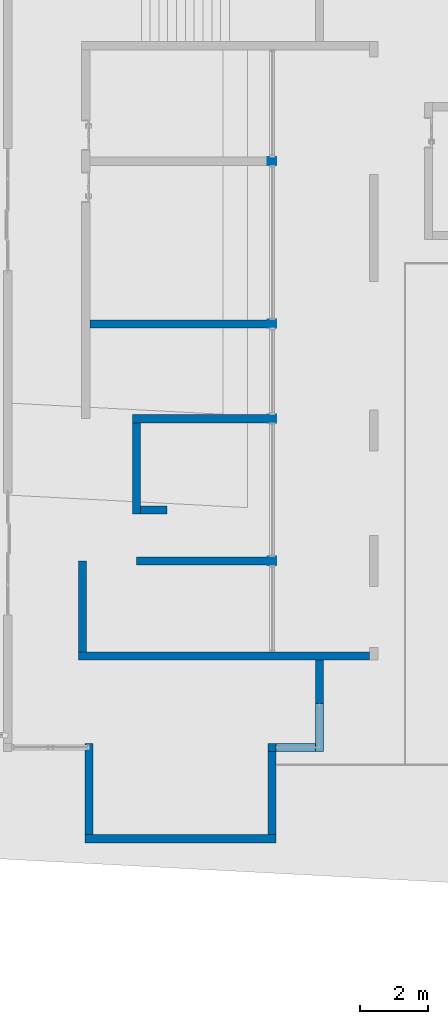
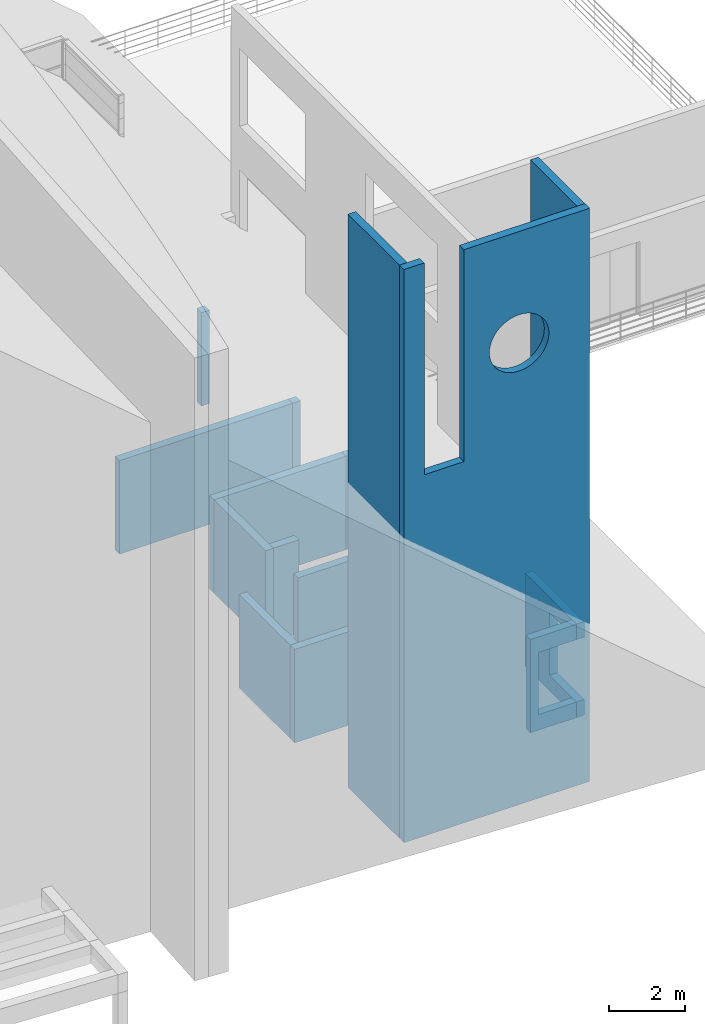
# One storey, part 54 of 82: 13 walls, 6 openings.
"""IFC2X3 building model written with IfcOpenShell, lengths in millimetres."""

from ifc_helpers import new_model, entity, si_unit, converted_unit, derived_unit, direction, frame, frame_2d, origin, origin_2d_with_axis, place, context, subcontext, project, spatial, rectangle, circle, extrude, faceted_brep, material, layer, layer_set, layer_usage, type_object, element, save


model = new_model("IFC2X3")

# Units and contexts
model_context = context("Model", 3, precision=0.01, world=origin(), true_north=direction((6.12303176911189e-17, 1.0)))
body_context = subcontext(model_context, "Body", "Model", "MODEL_VIEW")
ifc_project = project(units=[si_unit("LENGTHUNIT", "METRE", prefix="MILLI"), si_unit("AREAUNIT", "SQUARE_METRE"), si_unit("VOLUMEUNIT", "CUBIC_METRE"), converted_unit("PLANEANGLEUNIT", "DEGREE", entity("IfcRatioMeasure", 0.0174532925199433), si_unit("PLANEANGLEUNIT", "RADIAN"), dimensions=[0, 0, 0, 0, 0, 0, 0]), si_unit("MASSUNIT", "GRAM", prefix="KILO"), derived_unit("MASSDENSITYUNIT", [(si_unit("MASSUNIT", "GRAM", prefix="KILO"), 1), (si_unit("LENGTHUNIT", "METRE"), -3)]), si_unit("TIMEUNIT", "SECOND"), si_unit("FREQUENCYUNIT", "HERTZ"), si_unit("THERMODYNAMICTEMPERATUREUNIT", "DEGREE_CELSIUS"), derived_unit("THERMALTRANSMITTANCEUNIT", [(si_unit("MASSUNIT", "GRAM", prefix="KILO"), 1), (si_unit("THERMODYNAMICTEMPERATUREUNIT", "KELVIN"), -1), (si_unit("TIMEUNIT", "SECOND"), -3)]), derived_unit("VOLUMETRICFLOWRATEUNIT", [(si_unit("LENGTHUNIT", "METRE"), 3), (si_unit("TIMEUNIT", "SECOND"), -1)]), si_unit("ELECTRICCURRENTUNIT", "AMPERE"), si_unit("ELECTRICVOLTAGEUNIT", "VOLT"), si_unit("POWERUNIT", "WATT"), si_unit("FORCEUNIT", "NEWTON", prefix="KILO"), si_unit("ILLUMINANCEUNIT", "LUX"), si_unit("LUMINOUSFLUXUNIT", "LUMEN"), si_unit("LUMINOUSINTENSITYUNIT", "CANDELA"), derived_unit("USERDEFINED", [(si_unit("MASSUNIT", "GRAM", prefix="KILO"), -1), (si_unit("LENGTHUNIT", "METRE"), -2), (si_unit("TIMEUNIT", "SECOND"), 3), (si_unit("LUMINOUSFLUXUNIT", "LUMEN"), 1)]), derived_unit("LINEARVELOCITYUNIT", [(si_unit("LENGTHUNIT", "METRE"), 1), (si_unit("TIMEUNIT", "SECOND"), -1)]), si_unit("PRESSUREUNIT", "PASCAL"), derived_unit("USERDEFINED", [(si_unit("LENGTHUNIT", "METRE"), -2), (si_unit("MASSUNIT", "GRAM", prefix="KILO"), 1), (si_unit("TIMEUNIT", "SECOND"), -2)])], contexts=[model_context])

# Site, building, storey
site_placement = place(None, origin())
site = spatial("IfcSite", under=ifc_project, at=site_placement, Name="表面", CompositionType="ELEMENT")
building_placement = place(site_placement, origin())
building = spatial("IfcBuilding", under=site, at=building_placement, CompositionType="ELEMENT")
storey_placement = place(building_placement, origin())
storey = spatial("IfcBuildingStorey", under=building, at=storey_placement, Name="1F", CompositionType="ELEMENT", Elevation=0.0)

# Walls
ifc_material_1 = material(Name="白色涂料")
ifc_layer_1 = layer(ifc_material_1, 10.0)
ifc_material_2 = material(Name="默认墙")
ifc_layer_2 = layer(ifc_material_2, 220.0)
ifc_layer_3 = layer(ifc_material_1, 10.0)
ifc_layer_set = layer_set([ifc_layer_1, ifc_layer_2, ifc_layer_3], Name="基本墙:粉刷墙240")
wall_type = type_object("IfcWallType", Name="基本墙:粉刷墙240", PredefinedType="STANDARD", material=ifc_layer_set)
wall_1_placement = place(storey_placement, frame((-6630.24991264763, -11996.868426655, 0.0), z_axis=(0.0, 0.0, 1.0), x_axis=(0.0, -1.0, 0.0)))
element("IfcWall", 1, at=wall_1_placement, inside=storey, type_object=wall_type, Name="基本墙:粉刷墙240", ObjectType="基本墙:粉刷墙240", context=body_context, shape_type="SweptSolid", body=[
    extrude(rectangle(XDim=240.0, YDim=240.0, at=origin_2d_with_axis()), frame((120.0, 0.0, 0.0)), (0.0, 0.0, 1.0), 3000.00000000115),
    extrude(rectangle(XDim=239.999999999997, YDim=240.0, at=origin_2d_with_axis()), frame((11920.0, 0.0, 0.0)), (0.0, 0.0, 1.0), 3000.00000000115),
    extrude(rectangle(XDim=240.000000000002, YDim=240.0, at=frame_2d((0.0, -5.40012479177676e-13), x_axis=(1.0, 0.0))), frame((4920.0, 0.0, 0.0)), (0.0, 0.0, 1.0), 3000.00000000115),
    extrude(rectangle(XDim=239.999999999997, YDim=240.0, at=frame_2d((2.16715534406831e-12, -5.40012479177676e-13), x_axis=(1.0, 0.0))), frame((7720.0, 0.0, 0.0)), (0.0, 0.0, 1.0), 3000.00000000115),
])
ifc_layer_usage_1 = layer_usage(ifc_layer_set, "AXIS2", "NEGATIVE", 120.0)
wall_2_placement = place(storey_placement, frame((-12010.2499126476, -16916.868426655, 0.0)))
element("IfcWallStandardCase", 2, at=wall_2_placement, inside=storey, type_object=wall_type, material=ifc_layer_usage_1, Name="基本墙:粉刷墙240", ObjectType="基本墙:粉刷墙240", context=body_context, shape_type="SweptSolid", body=[
    extrude(rectangle(XDim=5260.0, YDim=240.000000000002, at=frame_2d((2630.0, -3.83693077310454e-13), x_axis=(-1.0, 0.0))), origin(), (0.0, 0.0, 1.0), 3000.00000000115),
])
ifc_layer_usage_2 = layer_usage(ifc_layer_set, "AXIS2", "NEGATIVE", 120.0)
wall_3_placement = place(storey_placement, frame((-6750.24991264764, -19716.868426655, 0.0), z_axis=(0.0, 0.0, 1.0), x_axis=(-1.0, 0.0, 0.0)))
element("IfcWallStandardCase", 3, at=wall_3_placement, inside=storey, type_object=wall_type, material=ifc_layer_usage_2, Name="基本墙:粉刷墙240", ObjectType="基本墙:粉刷墙240", context=body_context, shape_type="SweptSolid", body=[
    extrude(rectangle(XDim=4000.0, YDim=239.999999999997, at=frame_2d((2000.0, 0.0), x_axis=(-1.0, 0.0))), origin(), (0.0, 0.0, 1.0), 3000.00000000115),
])
ifc_layer_usage_3 = layer_usage(ifc_layer_set, "AXIS2", "NEGATIVE", 120.0)
wall_4_placement = place(storey_placement, frame((-10630.2499126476, -19836.868426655, 0.0), z_axis=(0.0, 0.0, 1.0), x_axis=(0.0, -1.0, 0.0)))
element("IfcWallStandardCase", 4, at=wall_4_placement, inside=storey, type_object=wall_type, material=ifc_layer_usage_3, Name="基本墙:粉刷墙240", ObjectType="基本墙:粉刷墙240", context=body_context, shape_type="SweptSolid", body=[
    extrude(rectangle(XDim=2700.00000000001, YDim=240.000000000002, at=frame_2d((1350.0, 0.0), x_axis=(-1.0, 0.0))), origin(), (0.0, 0.0, 1.0), 3000.00000000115),
])
ifc_layer_usage_4 = layer_usage(ifc_layer_set, "AXIS2", "NEGATIVE", 120.0)
wall_5_placement = place(storey_placement, frame((-10510.2499126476, -22416.868426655, 0.0)))
element("IfcWallStandardCase", 5, at=wall_5_placement, inside=storey, type_object=wall_type, material=ifc_layer_usage_4, Name="基本墙:粉刷墙240", ObjectType="基本墙:粉刷墙240", context=body_context, shape_type="SweptSolid", body=[
    extrude(rectangle(XDim=779.999999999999, YDim=239.999999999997, at=frame_2d((390.0, 0.0), x_axis=(-1.0, 0.0))), origin(), (0.0, 0.0, 1.0), 3000.00000000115),
])
ifc_layer_usage_5 = layer_usage(ifc_layer_set, "AXIS2", "NEGATIVE", 120.0)
wall_6_placement = place(storey_placement, frame((-6750.24991264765, -23916.868426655, 0.0), z_axis=(0.0, 0.0, 1.0), x_axis=(-1.0, 0.0, 0.0)))
element("IfcWallStandardCase", 6, at=wall_6_placement, inside=storey, type_object=wall_type, material=ifc_layer_usage_5, Name="基本墙:粉刷墙240", ObjectType="基本墙:粉刷墙240", context=body_context, shape_type="SweptSolid", body=[
    extrude(rectangle(XDim=3879.99999999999, YDim=239.999999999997, at=frame_2d((1940.0, -1.91846538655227e-13), x_axis=(-1.0, 0.0))), origin(), (0.0, 0.0, 1.0), 3000.00000000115),
])
ifc_layer_usage_6 = layer_usage(ifc_layer_set, "AXIS2", "NEGATIVE", 120.0)
wall_7_placement = place(storey_placement, frame((-12350.2499126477, -26716.868426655, 0.0)))
element("IfcWallStandardCase", 7, at=wall_7_placement, inside=storey, type_object=wall_type, material=ifc_layer_usage_6, Name="基本墙:粉刷墙240", ObjectType="基本墙:粉刷墙240", context=body_context, shape_type="SweptSolid", body=[
    extrude(rectangle(XDim=8600.0, YDim=239.999999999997, at=frame_2d((4300.0, 0.0), x_axis=(-1.0, 0.0))), origin(), (0.0, 0.0, 1.0), 3000.00000000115),
])
ifc_layer_usage_7 = layer_usage(ifc_layer_set, "AXIS2", "NEGATIVE", 120.0)
wall_8_placement = place(storey_placement, frame((-12230.2499126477, -26596.868426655, 0.0), z_axis=(0.0, 0.0, 1.0), x_axis=(0.0, 1.0, 0.0)))
element("IfcWallStandardCase", 8, at=wall_8_placement, inside=storey, type_object=wall_type, material=ifc_layer_usage_7, Name="基本墙:粉刷墙240", ObjectType="基本墙:粉刷墙240", context=body_context, shape_type="SweptSolid", body=[
    extrude(rectangle(XDim=2680.00000000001, YDim=240.000000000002, at=frame_2d((1340.00000000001, -9.9475983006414e-14), x_axis=(-1.0, 0.0))), origin(), (0.0, 0.0, 1.0), 3000.00000000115),
])

# Wall, opening
ifc_layer_usage_8 = layer_usage(ifc_layer_set, "AXIS2", "NEGATIVE", 120.0)
wall_9_placement = place(storey_placement, frame((-5230.24991264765, -26836.868426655, 0.0), z_axis=(0.0, 0.0, 1.0), x_axis=(0.0, -1.0, 0.0)))
wall_9 = element("IfcWallStandardCase", 9, at=wall_9_placement, inside=storey, type_object=wall_type, material=ifc_layer_usage_8, Name="基本墙:粉刷墙240", ObjectType="基本墙:粉刷墙240", context=body_context, shape_type="SweptSolid", body=[
    extrude(rectangle(XDim=2700.0, YDim=240.0, at=frame_2d((1350.0, 2.8421709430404e-14), x_axis=(-1.0, 0.0))), origin(), (0.0, 0.0, 1.0), 3000.00000000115),
])
opening_1_placement = place(wall_9_placement, frame((2700.0, -1280.0, 500.0), z_axis=(0.0, 0.0, 1.0), x_axis=(0.0, 1.0, 0.0)))
element("IfcOpeningElement", 10, at=opening_1_placement, cuts=wall_9, Name="基本墙:粉刷墙240", ObjectType="Opening", context=body_context, shape_type="Brep", body=[
    faceted_brep([(1160.0, 1420.0, 0.0), (1160.0, 1420.0, 2000.0), (1400.0, 1420.0, 2000.0), (1400.0, 1420.0, 0.0), (1160.0, 240.0, 0.0), (1160.0, 240.0, 2000.0), (0.0, 240.0, 2000.0), (0.0, 0.0, 2000.0), (1400.0, 0.0, 2000.0), (1400.0, 0.0, 0.0), (0.0, 0.0, 0.0), (0.0, 240.0, 0.0)], [[[0, 1, 2, 3]], [[1, 0, 4, 5]], [[2, 1, 5, 6, 7, 8]], [[3, 2, 8, 9]], [[0, 3, 9, 10, 11, 4]], [[11, 10, 7, 6]], [[5, 4, 11, 6]], [[9, 8, 7, 10]]]),
])

ifc_layer_usage_9 = layer_usage(ifc_layer_set, "AXIS2", "NEGATIVE", 120.0)
wall_10_placement = place(storey_placement, frame((-5350.24991264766, -29416.868426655, 0.0), z_axis=(0.0, 0.0, 1.0), x_axis=(-1.0, 0.0, 0.0)))
wall_10 = element("IfcWallStandardCase", 11, at=wall_10_placement, inside=storey, type_object=wall_type, material=ifc_layer_usage_9, Name="基本墙:粉刷墙240", ObjectType="基本墙:粉刷墙240", context=body_context, shape_type="SweptSolid", body=[
    extrude(rectangle(XDim=1400.0, YDim=239.999999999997, at=frame_2d((699.999999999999, 0.0), x_axis=(-1.0, 0.0))), origin(), (0.0, 0.0, 1.0), 3000.00000000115),
])
opening_2_placement = place(wall_10_placement, frame((1160.0, 120.0, 500.0)))
element("IfcOpeningElement", 12, at=opening_2_placement, cuts=wall_10, Name="基本墙:粉刷墙240", ObjectType="Opening", context=body_context, shape_type="Brep", body=[
    faceted_brep([(-1160.0, -1420.0, 0.0), (-1160.0, -1420.0, 2000.0), (-1400.0, -1420.0, 2000.0), (-1400.0, -1420.0, 0.0), (-1160.0, -240.0, 0.0), (-1160.0, -240.0, 2000.0), (0.0, -240.0, 2000.0), (0.0, 0.0, 2000.0), (-1400.0, 0.0, 2000.0), (-1400.0, 0.0, 0.0), (0.0, 0.0, 0.0), (0.0, -240.0, 0.0)], [[[0, 1, 2, 3]], [[1, 0, 4, 5]], [[2, 1, 5, 6, 7, 8]], [[3, 2, 8, 9]], [[0, 3, 9, 10, 11, 4]], [[11, 10, 7, 6]], [[5, 4, 11, 6]], [[9, 8, 7, 10]]]),
])

# Wall, openings
ifc_layer_usage_10 = layer_usage(ifc_layer_set, "AXIS2", "NEGATIVE", 120.0)
wall_11_placement = place(storey_placement, frame((-6630.24991264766, -29296.868426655, 0.0), z_axis=(0.0, 0.0, 1.0), x_axis=(0.0, -1.0, 0.0)))
wall_11 = element("IfcWallStandardCase", 13, at=wall_11_placement, inside=storey, type_object=wall_type, material=ifc_layer_usage_10, Name="基本墙:粉刷墙240", ObjectType="基本墙:粉刷墙240", context=body_context, shape_type="SweptSolid", body=[
    extrude(rectangle(XDim=2460.0, YDim=240.0, at=frame_2d((1470.0, 1.98951966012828e-13), x_axis=(-1.0, 0.0))), origin(), (0.0, 0.0, 1.0), 18400.0),
])
opening_3_placement = place(wall_11_placement, frame((240.0, 120.0, 3500.0)))
element("IfcOpeningElement", 14, at=opening_3_placement, cuts=wall_11, Name="基本墙:粉刷墙240", ObjectType="Opening", context=body_context, shape_type="Brep", body=[
    faceted_brep([(-2700.0, 1160.0, 0.0), (-2700.0, 1160.0, 2000.0), (-2700.0, 1400.0, 2000.0), (-2700.0, 1400.0, 0.0), (-240.0, 1160.0, 0.0), (-240.0, 1160.0, 2000.0), (-240.0, 0.0, 2000.0), (0.0, 0.0, 2000.0), (0.0, 1400.0, 2000.0), (0.0, 1400.0, 0.0), (0.0, 0.0, 0.0), (-240.0, 0.0, 0.0)], [[[0, 1, 2, 3]], [[1, 0, 4, 5]], [[2, 1, 5, 6, 7, 8]], [[3, 2, 8, 9]], [[0, 3, 9, 10, 11, 4]], [[11, 10, 7, 6]], [[5, 4, 11, 6]], [[9, 8, 7, 10]]]),
])
opening_4_placement = place(wall_11_placement, frame((240.0, 120.0, 6100.0)))
element("IfcOpeningElement", 15, at=opening_4_placement, cuts=wall_11, Name="基本墙:粉刷墙240", ObjectType="Opening", context=body_context, shape_type="Brep", body=[
    faceted_brep([(-2700.0, 1160.0, 0.0), (-2700.0, 1160.0, 2000.0), (-2700.0, 1400.0, 2000.0), (-2700.0, 1400.0, 0.0), (-240.0, 1160.0, 0.0), (-240.0, 1160.0, 2000.0), (-240.0, 0.0, 2000.0), (0.0, 0.0, 2000.0), (0.0, 1400.0, 2000.0), (0.0, 1400.0, 0.0), (0.0, 0.0, 0.0), (-240.0, 0.0, 0.0)], [[[0, 1, 2, 3]], [[1, 0, 4, 5]], [[2, 1, 5, 6, 7, 8]], [[3, 2, 8, 9]], [[0, 3, 9, 10, 11, 4]], [[11, 10, 7, 6]], [[5, 4, 11, 6]], [[9, 8, 7, 10]]]),
])

ifc_layer_usage_11 = layer_usage(ifc_layer_set, "AXIS2", "NEGATIVE", 120.0)
wall_12_placement = place(storey_placement, frame((-6510.24991264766, -32116.868426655, 0.0), z_axis=(0.0, 0.0, 1.0), x_axis=(-1.0, 0.0, 0.0)))
wall_12 = element("IfcWallStandardCase", 16, at=wall_12_placement, inside=storey, type_object=wall_type, material=ifc_layer_usage_11, Name="基本墙:粉刷墙240", ObjectType="基本墙:粉刷墙240", context=body_context, shape_type="SweptSolid", body=[
    extrude(rectangle(XDim=5640.0, YDim=239.999999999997, at=frame_2d((2820.0, 4.68958205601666e-13), x_axis=(-1.0, 0.0))), origin(), (0.0, 0.0, 1.0), 18400.0),
])
opening_5_placement = place(wall_12_placement, origin())
element("IfcOpeningElement", 17, at=opening_5_placement, cuts=wall_12, Name="基本墙:粉刷墙240", ObjectType="Opening", context=body_context, shape_type="SweptSolid", body=[
    extrude(circle(Radius=901.35012604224, at=frame_2d((2.16573425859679e-12, 415.249382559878), x_axis=(1.0, 0.0))), frame((2140.0, -272.400000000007, 15239.7177183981), z_axis=(0.0, 1.0, 0.0), x_axis=(1.0, 0.0, 0.0)), (0.0, 0.0, 1.0), 544.800000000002),
])
opening_6_placement = place(wall_12_placement, origin())
element("IfcOpeningElement", 18, at=opening_6_placement, cuts=wall_12, Name="基本墙:粉刷墙240", ObjectType="Opening", context=body_context, shape_type="SweptSolid", body=[
    extrude(rectangle(XDim=6800.0, YDim=1200.0, at=frame_2d((1.08002495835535e-12, -1.13686837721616e-12), x_axis=(0.0, 1.0))), frame((4420.0, 120.0, 15000.0), z_axis=(0.0, -1.0, 0.0), x_axis=(-1.0, 0.0, 0.0)), (0.0, 0.0, 1.0), 240.0),
])

# Wall
ifc_layer_usage_12 = layer_usage(ifc_layer_set, "AXIS2", "NEGATIVE", 120.0)
wall_13_placement = place(storey_placement, frame((-12030.2499126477, -31996.868426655, 0.0), z_axis=(0.0, 0.0, 1.0), x_axis=(0.0, 1.0, 0.0)))
element("IfcWallStandardCase", 19, at=wall_13_placement, inside=storey, type_object=wall_type, material=ifc_layer_usage_12, Name="基本墙:粉刷墙240", ObjectType="基本墙:粉刷墙240", context=body_context, shape_type="SweptSolid", body=[
    extrude(rectangle(XDim=2700.0, YDim=240.000000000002, at=frame_2d((1350.0, 0.0), x_axis=(-1.0, 0.0))), origin(), (0.0, 0.0, 1.0), 18400.0),
])

save(model, "model.ifc")
